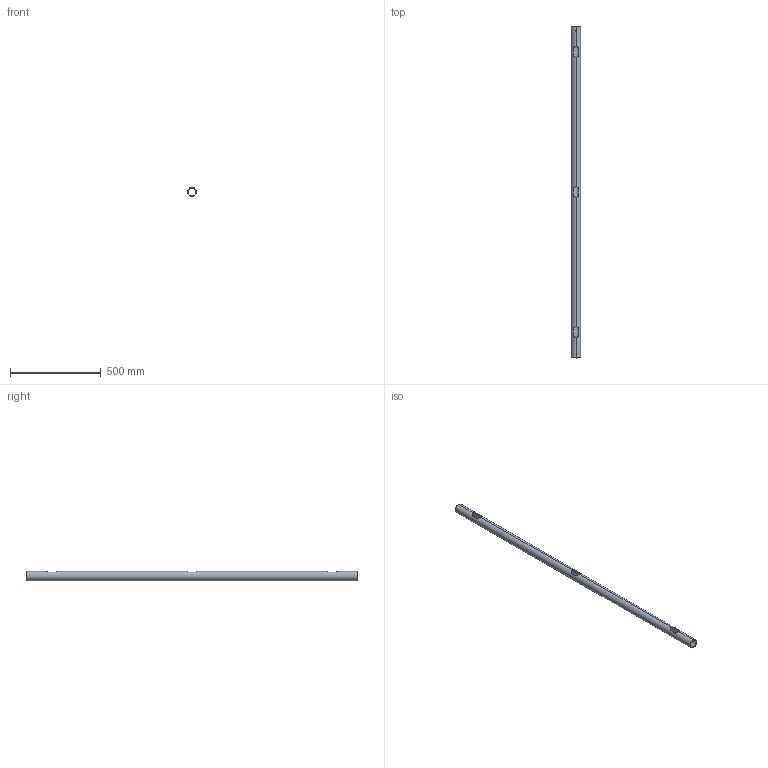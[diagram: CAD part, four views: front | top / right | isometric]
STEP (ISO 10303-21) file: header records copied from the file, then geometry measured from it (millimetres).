
FILE_DESCRIPTION (( 'STEP AP203' ), '1' );
FILE_NAME ('10-0606-00 REV 1, POLE, 2in OD x 6 FT, CABLE ROUTES.STEP', '2018-01-24T23:35:12', ( '' ), ( '' ), 'SwSTEP 2.0', 'SolidWorks 2012', '' );
FILE_SCHEMA (( 'CONFIG_CONTROL_DESIGN' ));
Length unit declared in the file: inch
Products named in the file (1): 10-0606-00 REV 1, POLE, 2in OD x 6 FT, CABLE ROUTES
Bounding box: 50.8 x 1828.8 x 50.8 mm (x, y, z)
Volume: 820306.8 mm3; surface area: 540903.1 mm2
Topology: 1 solids, 1 shells, 20 faces, 78 edges, 52 vertices
Faces by surface type: cylinder 12, plane 8
Entity records: 1641 total; most frequent: CARTESIAN_POINT 947, ORIENTED_EDGE 156, DIRECTION 96, EDGE_CURVE 78, VERTEX_POINT 52, LINE 38, VECTOR 38, B_SPLINE_CURVE_WITH_KNOTS 32
